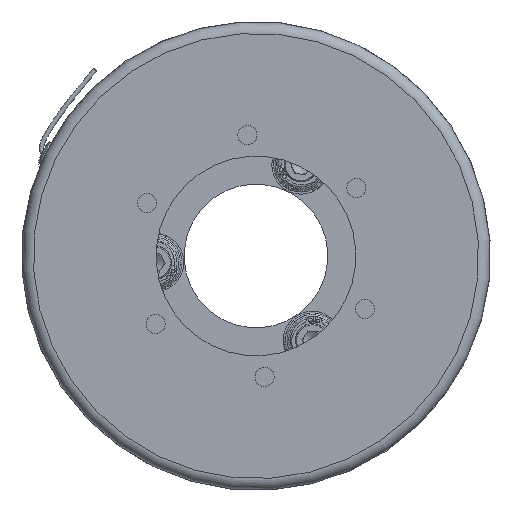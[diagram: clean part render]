
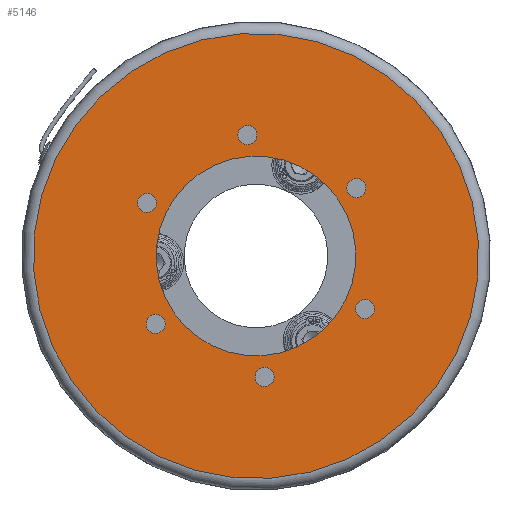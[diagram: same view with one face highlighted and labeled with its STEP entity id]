
A CAD part, left-side view. The second image highlights one B-rep face of the part: STEP entity #5146.
In plain terms, the highlighted planar face has unit normal (-1, 0, 0).
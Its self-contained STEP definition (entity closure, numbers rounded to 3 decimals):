
#132=FACE_BOUND('',#1603,.T.);
#133=FACE_BOUND('',#1604,.T.);
#134=FACE_BOUND('',#1605,.T.);
#135=FACE_BOUND('',#1606,.T.);
#136=FACE_BOUND('',#1607,.T.);
#137=FACE_BOUND('',#1608,.T.);
#138=FACE_BOUND('',#1609,.T.);
#961=PLANE('',#5724);
#1212=FACE_OUTER_BOUND('',#1602,.T.);
#1602=EDGE_LOOP('',(#4145));
#1603=EDGE_LOOP('',(#4146));
#1604=EDGE_LOOP('',(#4147));
#1605=EDGE_LOOP('',(#4148));
#1606=EDGE_LOOP('',(#4149));
#1607=EDGE_LOOP('',(#4150));
#1608=EDGE_LOOP('',(#4151));
#1609=EDGE_LOOP('',(#4152));
#2004=CIRCLE('',#5723,99.25);
#2005=CIRCLE('',#5725,44.5);
#2006=CIRCLE('',#5726,4.25);
#2007=CIRCLE('',#5727,4.25);
#2008=CIRCLE('',#5728,4.25);
#2009=CIRCLE('',#5729,4.25);
#2010=CIRCLE('',#5730,4.25);
#2011=CIRCLE('',#5731,4.25);
#2438=VERTEX_POINT('',#12547);
#2439=VERTEX_POINT('',#12551);
#2440=VERTEX_POINT('',#12553);
#2441=VERTEX_POINT('',#12555);
#2442=VERTEX_POINT('',#12557);
#2443=VERTEX_POINT('',#12559);
#2444=VERTEX_POINT('',#12561);
#2445=VERTEX_POINT('',#12563);
#3036=EDGE_CURVE('',#2438,#2438,#2004,.T.);
#3037=EDGE_CURVE('',#2439,#2439,#2005,.T.);
#3038=EDGE_CURVE('',#2440,#2440,#2006,.T.);
#3039=EDGE_CURVE('',#2441,#2441,#2007,.T.);
#3040=EDGE_CURVE('',#2442,#2442,#2008,.T.);
#3041=EDGE_CURVE('',#2443,#2443,#2009,.T.);
#3042=EDGE_CURVE('',#2444,#2444,#2010,.T.);
#3043=EDGE_CURVE('',#2445,#2445,#2011,.T.);
#4145=ORIENTED_EDGE('',*,*,#3036,.F.);
#4146=ORIENTED_EDGE('',*,*,#3037,.T.);
#4147=ORIENTED_EDGE('',*,*,#3038,.T.);
#4148=ORIENTED_EDGE('',*,*,#3039,.T.);
#4149=ORIENTED_EDGE('',*,*,#3040,.T.);
#4150=ORIENTED_EDGE('',*,*,#3041,.T.);
#4151=ORIENTED_EDGE('',*,*,#3042,.T.);
#4152=ORIENTED_EDGE('',*,*,#3043,.T.);
#5146=ADVANCED_FACE('',(#1212,#132,#133,#134,#135,#136,#137,#138),#961,
 .T.);
#5723=AXIS2_PLACEMENT_3D('',#12549,#6995,#6996);
#5724=AXIS2_PLACEMENT_3D('',#12550,#6997,#6998);
#5725=AXIS2_PLACEMENT_3D('',#12552,#6999,#7000);
#5726=AXIS2_PLACEMENT_3D('',#12554,#7001,#7002);
#5727=AXIS2_PLACEMENT_3D('',#12556,#7003,#7004);
#5728=AXIS2_PLACEMENT_3D('',#12558,#7005,#7006);
#5729=AXIS2_PLACEMENT_3D('',#12560,#7007,#7008);
#5730=AXIS2_PLACEMENT_3D('',#12562,#7009,#7010);
#5731=AXIS2_PLACEMENT_3D('',#12564,#7011,#7012);
#6995=DIRECTION('center_axis',(1.,0.,0.));
#6996=DIRECTION('ref_axis',(0.,-0.899,-0.437));
#6997=DIRECTION('center_axis',(-1.,0.,0.));
#6998=DIRECTION('ref_axis',(0.,-0.437,0.899));
#6999=DIRECTION('center_axis',(1.,0.,0.));
#7000=DIRECTION('ref_axis',(0.,0.899,0.437));
#7001=DIRECTION('center_axis',(1.,0.,0.));
#7002=DIRECTION('ref_axis',(0.,-0.437,0.899));
#7003=DIRECTION('center_axis',(1.,0.,0.));
#7004=DIRECTION('ref_axis',(0.,-0.437,0.899));
#7005=DIRECTION('center_axis',(1.,0.,0.));
#7006=DIRECTION('ref_axis',(0.,-0.437,0.899));
#7007=DIRECTION('center_axis',(1.,0.,0.));
#7008=DIRECTION('ref_axis',(0.,-0.437,0.899));
#7009=DIRECTION('center_axis',(1.,0.,0.));
#7010=DIRECTION('ref_axis',(0.,-0.437,0.899));
#7011=DIRECTION('center_axis',(1.,0.,0.));
#7012=DIRECTION('ref_axis',(0.,-0.437,0.899));
#12547=CARTESIAN_POINT('',(-35.5,-43.42,89.248));
#12549=CARTESIAN_POINT('Origin',(-35.5,0.,
0.));
#12550=CARTESIAN_POINT('Origin',(-35.5,66.88,32.538));
#12551=CARTESIAN_POINT('',(-35.5,-40.016,-19.468));
#12552=CARTESIAN_POINT('Origin',(-35.5,0.,
0.));
#12553=CARTESIAN_POINT('',(-35.5,50.418,19.802));
#12554=CARTESIAN_POINT('Origin',(-35.5,48.558,23.624));
#12555=CARTESIAN_POINT('',(-35.5,46.597,-34.062));
#12556=CARTESIAN_POINT('Origin',(-35.5,44.738,-30.241));
#12557=CARTESIAN_POINT('',(-35.5,-1.961,-57.686));
#12558=CARTESIAN_POINT('Origin',(-35.5,-3.82,-53.865));
#12559=CARTESIAN_POINT('',(-35.5,-46.699,-27.446));
#12560=CARTESIAN_POINT('Origin',(-35.5,-48.558,-23.624));
#12561=CARTESIAN_POINT('',(-35.5,-42.879,26.419));
#12562=CARTESIAN_POINT('Origin',(-35.5,-44.738,30.241));
#12563=CARTESIAN_POINT('',(-35.5,5.679,50.043));
#12564=CARTESIAN_POINT('Origin',(-35.5,3.82,53.865));
